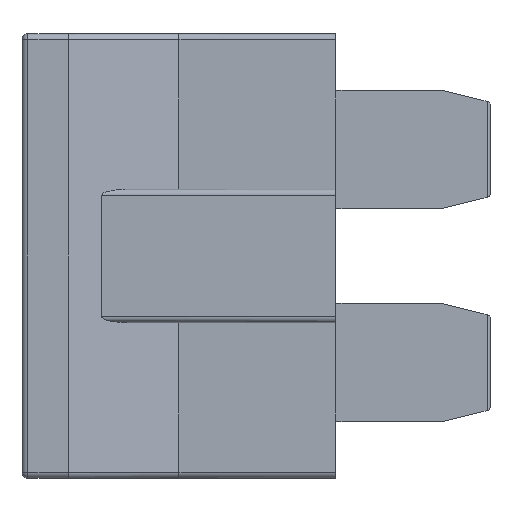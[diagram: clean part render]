
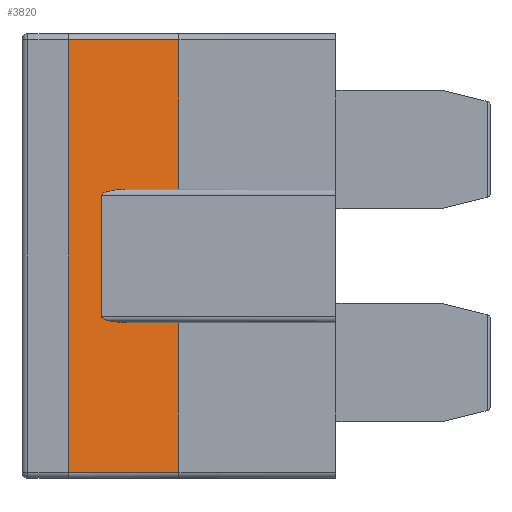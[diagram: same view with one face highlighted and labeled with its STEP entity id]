
A CAD part, left-side view. The second image highlights one B-rep face of the part: STEP entity #3820.
In plain terms, the highlighted planar face has unit normal (-0.975, -0.224, 0).
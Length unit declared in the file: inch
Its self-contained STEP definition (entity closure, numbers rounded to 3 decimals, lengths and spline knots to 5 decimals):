
#70=ELLIPSE('',#4008,0.04462,0.01);
#71=ELLIPSE('',#4011,0.04462,0.01);
#399=FACE_OUTER_BOUND('',#621,.T.);
#621=EDGE_LOOP('',(#3490,#3491,#3492,#3493,#3494,#3495,#3496,#3497,#3498,
#3499));
#1089=LINE('',#7000,#1449);
#1094=LINE('',#7014,#1454);
#1110=LINE('',#7052,#1470);
#1112=LINE('',#7062,#1472);
#1115=LINE('',#7067,#1475);
#1116=LINE('',#7069,#1476);
#1117=LINE('',#7071,#1477);
#1118=LINE('',#7073,#1478);
#1449=VECTOR('',#4707,0.3937);
#1454=VECTOR('',#4722,0.3937);
#1470=VECTOR('',#4766,0.3937);
#1472=VECTOR('',#4782,0.3937);
#1475=VECTOR('',#4787,0.3937);
#1476=VECTOR('',#4790,0.3937);
#1477=VECTOR('',#4793,0.3937);
#1478=VECTOR('',#4796,0.3937);
#1827=VERTEX_POINT('',#6993);
#1828=VERTEX_POINT('',#6995);
#1829=VERTEX_POINT('',#6999);
#1830=VERTEX_POINT('',#7003);
#1832=VERTEX_POINT('',#7009);
#1833=VERTEX_POINT('',#7013);
#1840=VERTEX_POINT('',#7049);
#1841=VERTEX_POINT('',#7051);
#1842=VERTEX_POINT('',#7061);
#1843=VERTEX_POINT('',#7065);
#2359=EDGE_CURVE('',#1827,#1828,#70,.F.);
#2361=EDGE_CURVE('',#1829,#1828,#1089,.T.);
#2363=EDGE_CURVE('',#1829,#1830,#71,.F.);
#2368=EDGE_CURVE('',#1832,#1833,#1094,.T.);
#2388=EDGE_CURVE('',#1840,#1841,#1110,.T.);
#2392=EDGE_CURVE('',#1842,#1830,#1112,.T.);
#2395=EDGE_CURVE('',#1827,#1843,#1115,.T.);
#2396=EDGE_CURVE('',#1832,#1842,#1116,.T.);
#2397=EDGE_CURVE('',#1843,#1841,#1117,.T.);
#2398=EDGE_CURVE('',#1833,#1840,#1118,.T.);
#3490=ORIENTED_EDGE('',*,*,#2368,.F.);
#3491=ORIENTED_EDGE('',*,*,#2396,.T.);
#3492=ORIENTED_EDGE('',*,*,#2392,.T.);
#3493=ORIENTED_EDGE('',*,*,#2363,.F.);
#3494=ORIENTED_EDGE('',*,*,#2361,.T.);
#3495=ORIENTED_EDGE('',*,*,#2359,.F.);
#3496=ORIENTED_EDGE('',*,*,#2395,.T.);
#3497=ORIENTED_EDGE('',*,*,#2397,.T.);
#3498=ORIENTED_EDGE('',*,*,#2388,.F.);
#3499=ORIENTED_EDGE('',*,*,#2398,.F.);
#3612=PLANE('',#4039);
#3820=ADVANCED_FACE('',(#399),#3612,.T.);
#4008=AXIS2_PLACEMENT_3D('',#6996,#4702,#4703);
#4011=AXIS2_PLACEMENT_3D('',#7004,#4711,#4712);
#4039=AXIS2_PLACEMENT_3D('',#7072,#4794,#4795);
#4702=DIRECTION('center_axis',(0.975,0.224,0.));
#4703=DIRECTION('ref_axis',(-0.224,0.975,0.));
#4707=DIRECTION('',(0.,0.,1.));
#4711=DIRECTION('center_axis',(0.975,0.224,0.));
#4712=DIRECTION('ref_axis',(-0.224,0.975,0.));
#4722=DIRECTION('',(-0.224,0.975,0.));
#4766=DIRECTION('',(0.224,-0.975,0.));
#4782=DIRECTION('',(-0.224,0.975,0.));
#4787=DIRECTION('',(0.224,-0.975,0.));
#4790=DIRECTION('',(0.,0.,1.));
#4793=DIRECTION('',(0.,0.,1.));
#4794=DIRECTION('center_axis',(-0.975,-0.224,0.));
#4795=DIRECTION('ref_axis',(0.224,-0.975,0.));
#4796=DIRECTION('',(0.,0.,1.));
#6993=CARTESIAN_POINT('',(-0.072,-0.17802,0.1125));
#6995=CARTESIAN_POINT('',(-0.082,-0.13453,0.1025));
#6996=CARTESIAN_POINT('Origin',(-0.072,-0.17802,
0.1025));
#6999=CARTESIAN_POINT('',(-0.082,-0.13453,-0.1025));
#7000=CARTESIAN_POINT('',(-0.082,-0.13453,-0.1875));
#7003=CARTESIAN_POINT('',(-0.072,-0.17802,-0.1125));
#7004=CARTESIAN_POINT('Origin',(-0.072,-0.17802,
-0.1025));
#7009=CARTESIAN_POINT('',(-0.052,-0.265,-0.365));
#7013=CARTESIAN_POINT('',(-0.095,-0.078,-0.365));
#7014=CARTESIAN_POINT('',(-0.10364,-0.04041,-0.365));
#7049=CARTESIAN_POINT('',(-0.095,-0.078,0.365));
#7051=CARTESIAN_POINT('',(-0.052,-0.265,0.365));
#7052=CARTESIAN_POINT('',(-0.09862,-0.06225,0.365));
#7061=CARTESIAN_POINT('',(-0.052,-0.265,-0.1125));
#7062=CARTESIAN_POINT('',(-0.04195,-0.3087,-0.1125));
#7065=CARTESIAN_POINT('',(-0.052,-0.265,0.1125));
#7067=CARTESIAN_POINT('',(-0.09131,-0.09405,0.1125));
#7069=CARTESIAN_POINT('',(-0.052,-0.265,-0.375));
#7071=CARTESIAN_POINT('',(-0.052,-0.265,-0.375));
#7072=CARTESIAN_POINT('Origin',(-0.095,-0.078,-0.375));
#7073=CARTESIAN_POINT('',(-0.095,-0.078,-0.1875));
